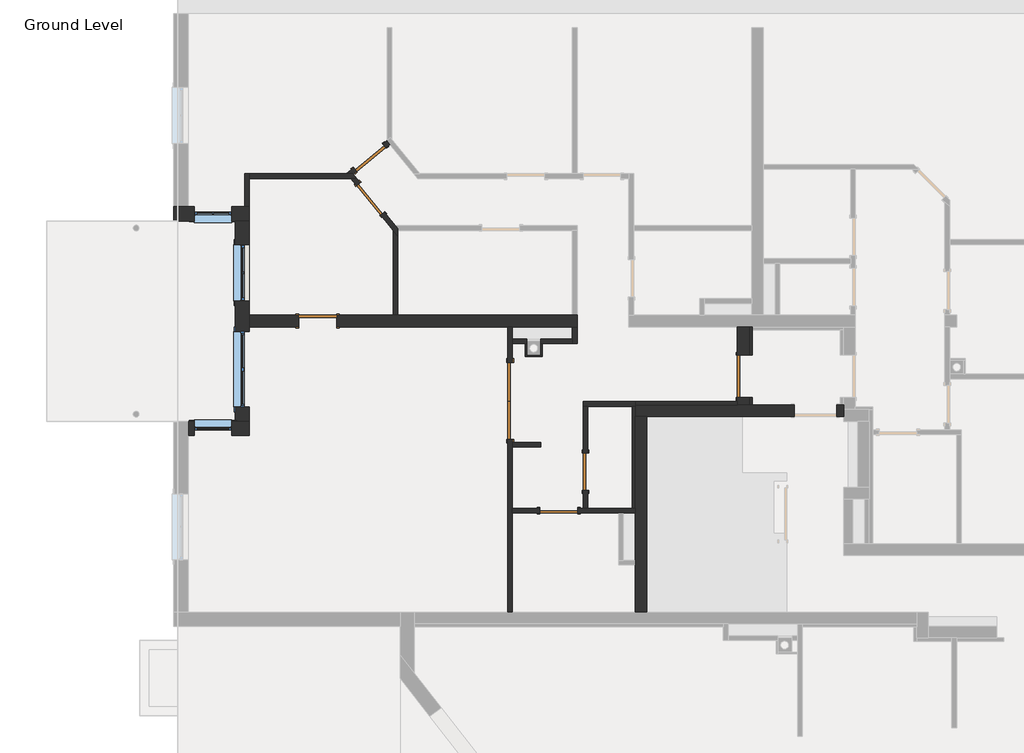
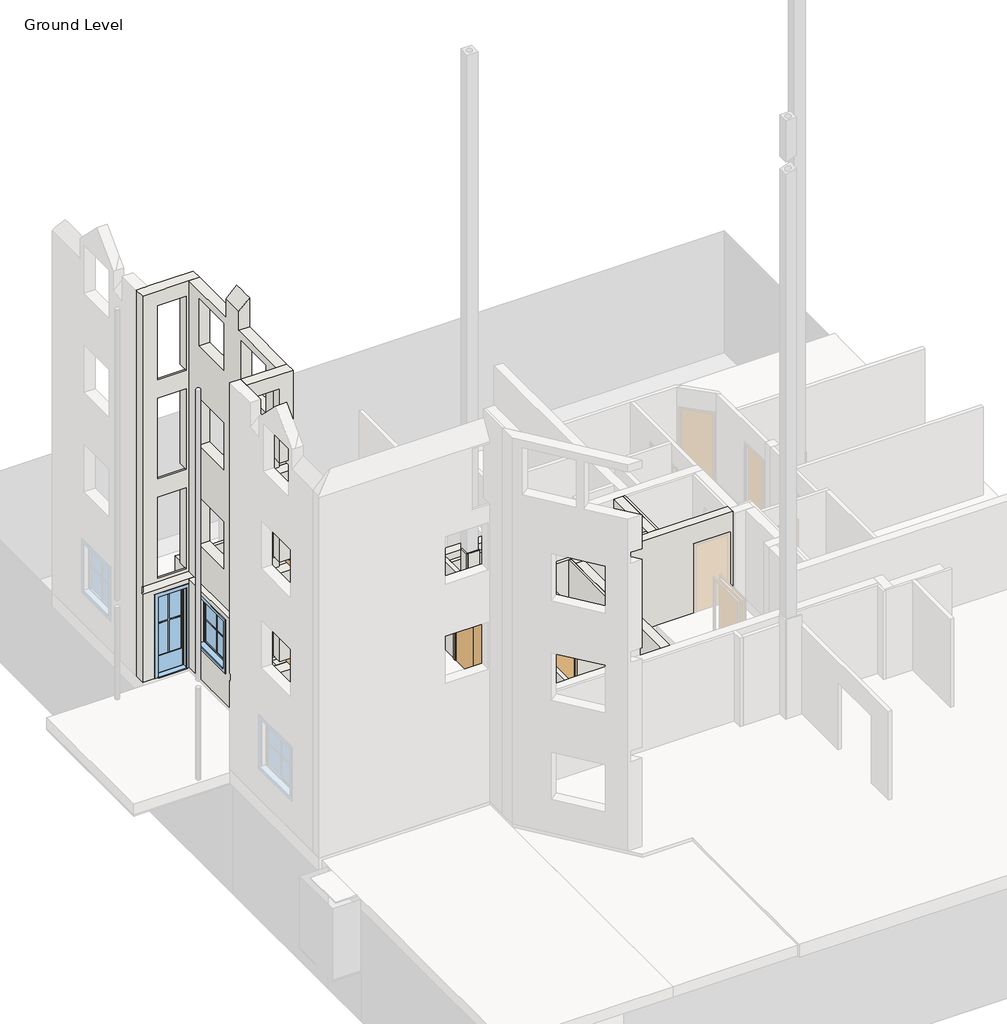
# One storey, part 3 of 6: 26 walls, 7 doors, 4 windows.
"""IFC4 building model written with IfcOpenShell, lengths in millimetres."""

from ifc_helpers import new_model, si_unit, frame, origin, origin_with_axes, place, context, project, spatial, polyline, outline, extrude, faceted_brep, transform, mapped, element, save
from components import m_double_flush_1640_x_2000mm_58610322, standard_door_sd_800x2000_6a16926d, standard_door_sd_800x2000_80f4ff25, standard_door_sd_800x2000_0203fe2f, standard_door_sd_900x2000_4224ae2a, standard_window_with_mullions_80486b60, window_1_87741a49, window_2_4fa60929

model = new_model("IFC4")

# Units and contexts
model_context = context("Model", 3, world=origin())
ifc_project = project(units=[si_unit("LENGTHUNIT", "METRE", prefix="MILLI")], contexts=[model_context])

# Site, building, storey
site = spatial("IfcSite", under=ifc_project)
building = spatial("IfcBuilding", under=site)
storey = spatial("IfcBuildingStorey", under=building, Name="Ground Level", Elevation=0.0)

# Doors
placement = place(None, origin())
m_double_flush_1640_x_2000mm_shape = m_double_flush_1640_x_2000mm_58610322(model_context)
element("IfcDoor", 1, ObjectType="M_Double-Flush : 1640 x 2000mm", at=placement, inside=storey, context=model_context, shape_type="MappedRepresentation", body=[
    mapped(m_double_flush_1640_x_2000mm_shape, transform((-5507.1962165, 2648.5597712, 0.0), x_axis=(0.0, 1.0, 0.0), y_axis=(-1.0, 0.0, 0.0), z_axis=(0.0, 0.0, 1.0))),
])
standard_door_sd_800x2000_shape = standard_door_sd_800x2000_6a16926d(model_context)
element("IfcDoor", 2, ObjectType="Standard Door : SD 800x2000", at=placement, inside=storey, context=model_context, shape_type="MappedRepresentation", body=[
    mapped(standard_door_sd_800x2000_shape, transform((-8469.5473453, 6934.8185333, 0.0), x_axis=(0.6321660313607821, -0.7748329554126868, 0.0), y_axis=(0.7748329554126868, 0.6321660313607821, 0.0), z_axis=(0.0, 0.0, 1.0))),
])
standard_door_sd_800x2000_2_shape = standard_door_sd_800x2000_80f4ff25(model_context)
element("IfcDoor", 3, ObjectType="Standard Door : SD 800x2000", at=placement, inside=storey, context=model_context, shape_type="MappedRepresentation", body=[
    mapped(standard_door_sd_800x2000_2_shape, transform((-3907.1962165, 1147.6290541, 0.0), x_axis=(0.0, 0.9999999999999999, 0.0), y_axis=(-0.9999999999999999, 0.0, 0.0), z_axis=(0.0, 0.0, 1.0))),
])
element("IfcDoor", 4, ObjectType="Standard Door : SD 800x2000", at=placement, inside=storey, context=model_context, shape_type="MappedRepresentation", body=[
    mapped(standard_door_sd_800x2000_2_shape, transform((-4475.9642739, 317.6290541, 0.0), x_axis=(-1.0, 0.0, 0.0), y_axis=(0.0, -1.0, 0.0), z_axis=(0.0, 0.0, 1.0))),
])
element("IfcDoor", 5, ObjectType="Standard Door : SD 800x2000", at=placement, inside=storey, context=model_context, shape_type="MappedRepresentation", body=[
    mapped(standard_door_sd_800x2000_2_shape, transform((-8482.650289, 7809.8077825, 0.0), x_axis=(-0.7748329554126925, -0.6321660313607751, 0.0), y_axis=(0.6321660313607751, -0.7748329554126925, 0.0), z_axis=(0.0, 0.0, 1.0))),
])
standard_door_sd_800x2000_3_shape = standard_door_sd_800x2000_0203fe2f(model_context)
element("IfcDoor", 6, ObjectType="Standard Door : SD 800x2000", at=placement, inside=storey, context=model_context, shape_type="MappedRepresentation", body=[
    mapped(standard_door_sd_800x2000_3_shape, transform((-9588.4360939, 4342.6290541, 0.0), x_axis=(-1.0, 0.0, 0.0), y_axis=(0.0, -1.0, 0.0), z_axis=(0.0, 0.0, 1.0))),
])
standard_door_sd_900x2000_shape = standard_door_sd_900x2000_4224ae2a(model_context)
element("IfcDoor", 7, ObjectType="Standard Door : SD 900x2000", at=placement, inside=storey, context=model_context, shape_type="MappedRepresentation", body=[
    mapped(standard_door_sd_900x2000_shape, transform((-562.1962165, 3171.1987133, 0.0), x_axis=(0.0, 1.0, 0.0), y_axis=(-1.0, 0.0, 0.0), z_axis=(0.0, 0.0, 1.0))),
])

# Walls
element("IfcWall", 8, ObjectType="Exterior - 250 + 50mm", at=placement, inside=storey, context=model_context, shape_type="Brep", body=[
    faceted_brep([(-11037.1962165, 2217.6290541, 0.0), (-11337.1962165, 2217.6290541, 0.0), (-11337.1962165, 2517.6290559, 0.0), (-11037.1962165, 2517.6290559, 0.0), (-11337.1962165, 6467.6290541, 0.0), (-11037.1962165, 6467.6290541, 0.0), (-11037.1962165, 4467.6290541, 0.0), (-11037.1962165, 4217.6290541, 0.0), (-11037.1962165, 4117.6290559, 0.0), (-11337.1962165, 4117.6290559, 0.0), (-11037.1962165, 2517.6290559, 2400.0), (-11037.1962165, 4117.6290559, 2400.0), (-11037.1962165, 6467.6290541, 2630.0), (-11037.1962165, 4467.6290541, 2630.0), (-11037.1962165, 4217.6290541, 2630.0), (-11037.1962165, 2217.6290541, 2630.0), (-11037.1962165, 4767.6290548, 1000.0), (-11037.1962165, 4767.6290548, 2400.0), (-11037.1962165, 5967.6290548, 2400.0), (-11037.1962165, 5967.6290548, 1000.0), (-11337.1962165, 2517.6290559, 2400.0), (-11337.1962165, 2217.6290541, 2630.0), (-11337.1962165, 6467.6290541, 2630.0), (-11337.1962165, 4117.6290559, 2400.0), (-11337.1962165, 4767.6290548, 2400.0), (-11337.1962165, 4767.6290548, 1000.0), (-11337.1962165, 5967.6290548, 1000.0), (-11337.1962165, 5967.6290548, 2400.0)], [[[0, 1, 2, 3]], [[4, 5, 6, 7, 8, 9]], [[3, 10, 11, 8, 7, 6, 5, 12, 13, 14, 15, 0], [16, 17, 18, 19]], [[20, 2, 1, 21, 22, 4, 9, 23], [24, 25, 26, 27]], [[1, 0, 15, 21]], [[5, 4, 22, 12]], [[10, 3, 2, 20]], [[11, 10, 20, 23]], [[8, 11, 23, 9]], [[17, 16, 25, 24]], [[18, 17, 24, 27]], [[19, 18, 27, 26]], [[16, 19, 26, 25]], [[15, 14, 13, 12, 22, 21]]]),
    faceted_brep([(-11037.1962165, 4647.6290541, 11480.0), (-11037.1962165, 4647.6290541, 11800.0), (-11037.1962165, 4647.6290541, 12350.0), (-11037.1962165, 4447.6290541, 12350.0), (-11037.1962165, 4237.6290541, 12350.0), (-11037.1962165, 4037.6290541, 12350.0), (-11037.1962165, 4037.6290541, 11800.0), (-11037.1962165, 4037.6290541, 11480.0), (-11037.1962165, 2217.6290541, 11480.0), (-11037.1962165, 2217.6290541, 8850.0), (-11037.1962165, 4152.6290541, 8850.0), (-11037.1962165, 4217.6290541, 8850.0), (-11037.1962165, 4467.6290541, 8850.0), (-11037.1962165, 6467.6290541, 8850.0), (-11037.1962165, 6467.6290541, 11480.0), (-11037.1962165, 2717.6290548, 9850.0), (-11037.1962165, 2717.6290548, 11250.0), (-11037.1962165, 3917.6290548, 11250.0), (-11037.1962165, 3917.6290548, 9850.0), (-11037.1962165, 4767.6290548, 9850.0), (-11037.1962165, 4767.6290548, 11250.0), (-11037.1962165, 5967.6290548, 11250.0), (-11037.1962165, 5967.6290548, 9850.0), (-11037.1962165, 2517.6290559, 5900.0), (-11037.1962165, 2517.6290559, 8300.0), (-11037.1962165, 4117.6290559, 8300.0), (-11037.1962165, 4117.6290559, 5900.0), (-11037.1962165, 4152.6290541, 5900.0), (-11037.1962165, 4217.6290541, 5900.0), (-11037.1962165, 4467.6290541, 5900.0), (-11037.1962165, 6467.6290541, 5900.0), (-11037.1962165, 6467.6290541, 8530.0), (-11037.1962165, 4467.6290541, 8530.0), (-11037.1962165, 4217.6290541, 8530.0), (-11037.1962165, 4152.6290541, 8530.0), (-11037.1962165, 2217.6290541, 8530.0), (-11037.1962165, 2217.6290541, 5900.0), (-11037.1962165, 4767.6290548, 6900.0), (-11037.1962165, 4767.6290548, 8300.0), (-11037.1962165, 5967.6290548, 8300.0), (-11037.1962165, 5967.6290548, 6900.0), (-11037.1962165, 2517.6290559, 2950.0), (-11037.1962165, 2517.6290559, 5350.0), (-11037.1962165, 4117.6290559, 5350.0), (-11037.1962165, 4117.6290559, 2950.0), (-11037.1962165, 4152.6290541, 2950.0), (-11037.1962165, 4217.6290541, 2950.0), (-11037.1962165, 4467.6290541, 2950.0), (-11037.1962165, 6367.6290541, 2950.0), (-11037.1962165, 6467.6290541, 2950.0), (-11037.1962165, 6467.6290541, 5580.0), (-11037.1962165, 6367.6290541, 5580.0), (-11037.1962165, 4467.6290541, 5580.0), (-11037.1962165, 4217.6290541, 5580.0), (-11037.1962165, 4152.6290541, 5580.0), (-11037.1962165, 2217.6290541, 5580.0), (-11037.1962165, 2217.6290541, 2950.0), (-11037.1962165, 4767.6290548, 3950.0), (-11037.1962165, 4767.6290548, 5350.0), (-11037.1962165, 5967.6290548, 5350.0), (-11037.1962165, 5967.6290548, 3950.0), (-11337.1962165, 4647.6290541, 12050.0), (-11337.1962165, 4647.6290541, 11480.0), (-11337.1962165, 6467.6290541, 11480.0), (-11337.1962165, 6467.6290541, 2850.0), (-11337.1962165, 4392.6290541, 2850.0), (-11337.1962165, 4292.6290541, 2850.0), (-11337.1962165, 2217.6290541, 2850.0), (-11337.1962165, 2217.6290541, 11480.0), (-11337.1962165, 4037.6290541, 11480.0), (-11337.1962165, 4037.6290541, 12050.0), (-11337.1962165, 2717.6290548, 11250.0), (-11337.1962165, 2717.6290548, 9850.0), (-11337.1962165, 3917.6290548, 9850.0), (-11337.1962165, 3917.6290548, 11250.0), (-11337.1962165, 4767.6290548, 11250.0), (-11337.1962165, 4767.6290548, 9850.0), (-11337.1962165, 5967.6290548, 9850.0), (-11337.1962165, 5967.6290548, 11250.0), (-11337.1962165, 4767.6290548, 8300.0), (-11337.1962165, 4767.6290548, 6900.0), (-11337.1962165, 5967.6290548, 6900.0), (-11337.1962165, 5967.6290548, 8300.0), (-11337.1962165, 2517.6290559, 8300.0), (-11337.1962165, 2517.6290559, 5900.0), (-11337.1962165, 4117.6290559, 5900.0), (-11337.1962165, 4117.6290559, 8300.0), (-11337.1962165, 4767.6290548, 5350.0), (-11337.1962165, 4767.6290548, 3950.0), (-11337.1962165, 5967.6290548, 3950.0), (-11337.1962165, 5967.6290548, 5350.0), (-11337.1962165, 2517.6290559, 5350.0), (-11337.1962165, 2517.6290559, 2950.0), (-11337.1962165, 4117.6290559, 2950.0), (-11337.1962165, 4117.6290559, 5350.0), (-11287.1962165, 2217.6290541, 2850.0), (-11287.1962165, 2217.6290541, 2950.0), (-11287.1962165, 2217.6290541, 5580.0), (-11287.1962165, 2217.6290541, 5900.0), (-11287.1962165, 2217.6290541, 8530.0), (-11287.1962165, 2217.6290541, 8850.0), (-11287.1962165, 6467.6290541, 8850.0), (-11287.1962165, 6467.6290541, 8530.0), (-11287.1962165, 6467.6290541, 5900.0), (-11287.1962165, 6467.6290541, 5580.0), (-11287.1962165, 6467.6290541, 2950.0), (-11287.1962165, 6467.6290541, 2850.0), (-11287.1962165, 2517.6290559, 5900.0), (-11287.1962165, 4117.6290559, 5900.0), (-11287.1962165, 2517.6290559, 2950.0), (-11287.1962165, 4117.6290559, 2950.0)], [[[0, 1, 2, 3, 4, 5, 6, 7, 8, 9, 10, 11, 12, 13, 14], [15, 16, 17, 18], [19, 20, 21, 22]], [[23, 24, 25, 26, 27, 28, 29, 30, 31, 32, 33, 34, 35, 36], [37, 38, 39, 40]], [[41, 42, 43, 44, 45, 46, 47, 48, 49, 50, 51, 52, 53, 54, 55, 56], [57, 58, 59, 60]], [[61, 62, 63, 64, 65, 66, 67, 68, 69, 70], [71, 72, 73, 74], [75, 76, 77, 78], [79, 80, 81, 82], [83, 84, 85, 86], [87, 88, 89, 90], [91, 92, 93, 94]], [[8, 68, 67, 95, 96, 56, 55, 97, 98, 36, 35, 99, 100, 9]], [[63, 14, 13, 101, 102, 31, 30, 103, 104, 50, 49, 105, 106, 64]], [[2, 1, 0, 62, 61]], [[70, 69, 7, 6, 5]], [[5, 4, 3, 2, 61, 70]], [[0, 14, 63, 62]], [[8, 7, 69, 68]], [[16, 15, 72, 71]], [[17, 16, 71, 74]], [[18, 17, 74, 73]], [[15, 18, 73, 72]], [[20, 19, 76, 75]], [[21, 20, 75, 78]], [[22, 21, 78, 77]], [[19, 22, 77, 76]], [[38, 37, 80, 79]], [[39, 38, 79, 82]], [[40, 39, 82, 81]], [[37, 40, 81, 80]], [[24, 23, 107, 84, 83]], [[25, 24, 83, 86]], [[26, 25, 86, 85, 108]], [[85, 84, 107, 108]], [[58, 57, 88, 87]], [[59, 58, 87, 90]], [[60, 59, 90, 89]], [[57, 60, 89, 88]], [[42, 41, 109, 92, 91]], [[43, 42, 91, 94]], [[44, 43, 94, 93, 110]], [[93, 92, 109, 110]], [[96, 109, 41, 56]], [[110, 105, 49, 48, 47, 46, 45, 44]], [[109, 96, 95, 106, 105, 110]], [[67, 66, 65, 64, 106, 95]], [[104, 97, 55, 54, 53, 52, 51, 50]], [[98, 107, 23, 36]], [[108, 103, 30, 29, 28, 27, 26]], [[97, 104, 103, 108, 107, 98]], [[102, 99, 35, 34, 33, 32, 31]], [[100, 101, 13, 12, 11, 10, 9]], [[99, 102, 101, 100]]]),
])
element("IfcWall", 9, ObjectType="Exterior - 250+50mm", at=placement, inside=storey, context=model_context, shape_type="Brep", body=[
    faceted_brep([(-12637.1962165, 6467.6290541, 0.0), (-12637.1962165, 6767.6290541, 0.0), (-12337.1962165, 6767.6290541, 0.0), (-12207.370388, 6767.6290541, 0.0), (-12207.370388, 6467.6290541, 0.0), (-11037.1962165, 6767.6290541, 0.0), (-11037.1962165, 6467.6290541, 0.0), (-11337.1962165, 6467.6290541, 0.0), (-11407.370388, 6467.6290541, 0.0), (-11407.370388, 6767.6290541, 0.0), (-11137.1962165, 6767.6290541, 0.0), (-12637.1962165, 6767.6290541, 11480.0), (-12337.1962165, 6767.6290541, 11480.0), (-11037.1962165, 6767.6290541, 11480.0), (-11037.1962165, 6767.6290541, 8850.0), (-11407.370388, 6767.6290541, 8850.0), (-11407.370388, 6767.6290541, 11050.0), (-12207.370388, 6767.6290541, 11050.0), (-12207.370388, 6767.6290541, 8850.0), (-12337.1962165, 6767.6290541, 8850.0), (-12587.1962165, 6767.6290541, 8850.0), (-12587.1962165, 6767.6290541, 8530.0), (-12337.1962165, 6767.6290541, 8530.0), (-11137.1962165, 6767.6290541, 8530.0), (-11037.1962165, 6767.6290541, 8530.0), (-11037.1962165, 6767.6290541, 5900.0), (-11137.1962165, 6767.6290541, 5900.0), (-11407.370388, 6767.6290541, 5900.0), (-11407.370388, 6767.6290541, 8300.0), (-12207.370388, 6767.6290541, 8300.0), (-12207.370388, 6767.6290541, 5900.0), (-12337.1962165, 6767.6290541, 5900.0), (-12587.1962165, 6767.6290541, 5900.0), (-12587.1962165, 6767.6290541, 5580.0), (-12337.1962165, 6767.6290541, 5580.0), (-11037.1962165, 6767.6290541, 5580.0), (-11037.1962165, 6767.6290541, 2950.0), (-11407.370388, 6767.6290541, 2950.0), (-11407.370388, 6767.6290541, 5350.0), (-12207.370388, 6767.6290541, 5350.0), (-12207.370388, 6767.6290541, 2950.0), (-12337.1962165, 6767.6290541, 2950.0), (-12587.1962165, 6767.6290541, 2950.0), (-12587.1962165, 6767.6290541, 2630.0), (-12337.1962165, 6767.6290541, 2630.0), (-11137.1962165, 6767.6290541, 2630.0), (-11037.1962165, 6767.6290541, 2630.0), (-11407.370388, 6767.6290541, 2400.0), (-12207.370388, 6767.6290541, 2400.0), (-11037.1962165, 6467.6290541, 11480.0), (-11337.1962165, 6467.6290541, 11480.0), (-12637.1962165, 6467.6290541, 11480.0), (-12637.1962165, 6467.6290541, 2850.0), (-11337.1962165, 6467.6290541, 2850.0), (-11287.1962165, 6467.6290541, 2850.0), (-11287.1962165, 6467.6290541, 2950.0), (-11037.1962165, 6467.6290541, 2950.0), (-11037.1962165, 6467.6290541, 5580.0), (-11287.1962165, 6467.6290541, 5580.0), (-11287.1962165, 6467.6290541, 5900.0), (-11037.1962165, 6467.6290541, 5900.0), (-11037.1962165, 6467.6290541, 8530.0), (-11287.1962165, 6467.6290541, 8530.0), (-11287.1962165, 6467.6290541, 8850.0), (-11037.1962165, 6467.6290541, 8850.0), (-12207.370388, 6467.6290541, 8850.0), (-12207.370388, 6467.6290541, 11050.0), (-11407.370388, 6467.6290541, 11050.0), (-11407.370388, 6467.6290541, 8850.0), (-12207.370388, 6467.6290541, 5900.0), (-12207.370388, 6467.6290541, 8300.0), (-11407.370388, 6467.6290541, 8300.0), (-11407.370388, 6467.6290541, 5900.0), (-12207.370388, 6467.6290541, 2950.0), (-12207.370388, 6467.6290541, 5350.0), (-11407.370388, 6467.6290541, 5350.0), (-11407.370388, 6467.6290541, 2950.0), (-11407.370388, 6467.6290541, 2400.0), (-11037.1962165, 6467.6290541, 2630.0), (-11337.1962165, 6467.6290541, 2630.0), (-12637.1962165, 6467.6290541, 2630.0), (-12207.370388, 6467.6290541, 2400.0), (-12637.1962165, 6517.6290541, 2630.0), (-12637.1962165, 6517.6290541, 2850.0), (-12207.370388, 6517.6290541, 8850.0), (-11407.370388, 6517.6290541, 8850.0), (-12207.370388, 6517.6290541, 5900.0), (-11407.370388, 6517.6290541, 5900.0), (-12207.370388, 6517.6290541, 2950.0), (-11407.370388, 6517.6290541, 2950.0), (-12587.1962165, 6517.6290541, 2630.0), (-12587.1962165, 6517.6290541, 2950.0), (-11287.1962165, 6517.6290541, 2950.0), (-11287.1962165, 6517.6290541, 2850.0), (-12587.1962165, 6517.6290541, 2850.0), (-12587.1962165, 6517.6290541, 5580.0), (-11287.1962165, 6517.6290541, 5580.0), (-12587.1962165, 6517.6290541, 5900.0), (-11287.1962165, 6517.6290541, 5900.0), (-12587.1962165, 6517.6290541, 8530.0), (-11287.1962165, 6517.6290541, 8530.0), (-12587.1962165, 6517.6290541, 8850.0), (-11287.1962165, 6517.6290541, 8850.0)], [[[0, 1, 2, 3, 4]], [[5, 6, 7, 8, 9, 10]], [[1, 11, 12, 13, 14, 15, 16, 17, 18, 19, 20, 21, 22, 23, 24, 25, 26, 27, 28, 29, 30, 31, 32, 33, 34, 35, 36, 37, 38, 39, 40, 41, 42, 43, 44, 45, 46, 5, 10, 9, 47, 48, 3, 2]], [[49, 50, 51, 52, 53, 54, 55, 56, 57, 58, 59, 60, 61, 62, 63, 64], [65, 66, 67, 68], [69, 70, 71, 72], [73, 74, 75, 76]], [[77, 8, 7, 6, 78, 79, 80, 0, 4, 81]], [[11, 1, 0, 80, 82, 83, 52, 51]], [[6, 5, 46, 78]], [[13, 49, 64, 14]], [[56, 36, 35, 57]], [[60, 25, 24, 61]], [[13, 12, 11, 51, 50, 49]], [[47, 9, 8, 77]], [[48, 47, 77, 81]], [[3, 48, 81, 4]], [[66, 65, 84, 18, 17]], [[67, 66, 17, 16]], [[68, 67, 16, 15, 85]], [[65, 68, 85, 84]], [[70, 69, 86, 30, 29]], [[71, 70, 29, 28]], [[72, 71, 28, 27, 87]], [[69, 72, 87, 86]], [[74, 73, 88, 40, 39]], [[75, 74, 39, 38]], [[76, 75, 38, 37, 89]], [[73, 76, 89, 88]], [[43, 90, 82, 80, 79, 78, 46, 45, 44]], [[88, 91, 42, 41, 40]], [[92, 89, 37, 36, 56, 55]], [[92, 55, 54, 93]], [[91, 88, 89, 92, 93, 94]], [[90, 43, 42, 91, 94]], [[83, 94, 93, 54, 53, 52]], [[82, 90, 94, 83]], [[95, 96, 58, 57, 35, 34, 33]], [[86, 97, 32, 31, 30]], [[98, 87, 27, 26, 25, 60, 59]], [[96, 98, 59, 58]], [[96, 95, 97, 86, 87, 98]], [[97, 95, 33, 32]], [[99, 100, 62, 61, 24, 23, 22, 21]], [[84, 101, 20, 19, 18]], [[102, 85, 15, 14, 64, 63]], [[100, 102, 63, 62]], [[100, 99, 101, 84, 85, 102]], [[101, 99, 21, 20]]]),
])
element("IfcWall", 10, ObjectType="Exterior - 250+50mm", at=placement, inside=storey, context=model_context, shape_type="Brep", body=[
    faceted_brep([(-12337.1962165, 1917.6290541, 0.0), (-12337.1962165, 2217.6290541, 0.0), (-12207.3703663, 2217.6290541, 0.0), (-12207.3703663, 1917.6290541, 0.0), (-11037.1962165, 2217.6290541, 0.0), (-11037.1962165, 1917.6290541, 0.0), (-11407.3703663, 1917.6290541, 0.0), (-11407.3703663, 2217.6290541, 0.0), (-11337.1962165, 2217.6290541, 0.0), (-12207.3703663, 1917.6290541, 2400.0), (-11407.3703663, 1917.6290541, 2400.0), (-11037.1962165, 1917.6290541, 2630.0), (-12337.1962165, 1917.6290541, 2630.0), (-12207.3703663, 2217.6290541, 2400.0), (-12337.1962165, 2217.6290541, 2630.0), (-11337.1962165, 2217.6290541, 2630.0), (-11037.1962165, 2217.6290541, 2630.0), (-11407.3703663, 2217.6290541, 2400.0)], [[[0, 1, 2, 3]], [[4, 5, 6, 7, 8]], [[3, 9, 10, 6, 5, 11, 12, 0]], [[13, 2, 1, 14, 15, 16, 4, 8, 7, 17]], [[1, 0, 12, 14]], [[5, 4, 16, 11]], [[9, 3, 2, 13]], [[10, 9, 13, 17]], [[6, 10, 17, 7]], [[12, 11, 16, 15, 14]]]),
    faceted_brep([(-11037.1962165, 1917.6290541, 11480.0), (-12337.1962165, 1917.6290541, 11480.0), (-12337.1962165, 1917.6290541, 8850.0), (-12207.3703663, 1917.6290541, 8850.0), (-12207.3703663, 1917.6290541, 11050.0), (-11407.3703663, 1917.6290541, 11050.0), (-11407.3703663, 1917.6290541, 8850.0), (-11037.1962165, 1917.6290541, 8850.0), (-12207.3703663, 1917.6290541, 5900.0), (-12207.3703663, 1917.6290541, 8300.0), (-11407.3703663, 1917.6290541, 8300.0), (-11407.3703663, 1917.6290541, 5900.0), (-11037.1962165, 1917.6290541, 5900.0), (-11037.1962165, 1917.6290541, 8530.0), (-12337.1962165, 1917.6290541, 8530.0), (-12337.1962165, 1917.6290541, 5900.0), (-12207.3703663, 1917.6290541, 2950.0), (-12207.3703663, 1917.6290541, 5350.0), (-11407.3703663, 1917.6290541, 5350.0), (-11407.3703663, 1917.6290541, 2950.0), (-11037.1962165, 1917.6290541, 2950.0), (-11037.1962165, 1917.6290541, 5580.0), (-12337.1962165, 1917.6290541, 5580.0), (-12337.1962165, 1917.6290541, 2950.0), (-12337.1962165, 2217.6290541, 11480.0), (-11337.1962165, 2217.6290541, 11480.0), (-11037.1962165, 2217.6290541, 11480.0), (-11037.1962165, 2217.6290541, 8850.0), (-11287.1962165, 2217.6290541, 8850.0), (-11287.1962165, 2217.6290541, 8530.0), (-11037.1962165, 2217.6290541, 8530.0), (-11037.1962165, 2217.6290541, 5900.0), (-11287.1962165, 2217.6290541, 5900.0), (-11287.1962165, 2217.6290541, 5580.0), (-11037.1962165, 2217.6290541, 5580.0), (-11037.1962165, 2217.6290541, 2950.0), (-11287.1962165, 2217.6290541, 2950.0), (-11287.1962165, 2217.6290541, 2850.0), (-11337.1962165, 2217.6290541, 2850.0), (-12337.1962165, 2217.6290541, 2850.0), (-12207.3703663, 2217.6290541, 11050.0), (-12207.3703663, 2217.6290541, 8850.0), (-11407.3703663, 2217.6290541, 8850.0), (-11407.3703663, 2217.6290541, 11050.0), (-12207.3703663, 2217.6290541, 8300.0), (-12207.3703663, 2217.6290541, 5900.0), (-11407.3703663, 2217.6290541, 5900.0), (-11407.3703663, 2217.6290541, 8300.0), (-12207.3703663, 2217.6290541, 5350.0), (-12207.3703663, 2217.6290541, 2950.0), (-11407.3703663, 2217.6290541, 2950.0), (-11407.3703663, 2217.6290541, 5350.0), (-12337.1962165, 2167.6290541, 2850.0), (-12337.1962165, 2167.6290541, 2950.0), (-12337.1962165, 2167.6290541, 5580.0), (-12337.1962165, 2167.6290541, 5900.0), (-12337.1962165, 2167.6290541, 8530.0), (-12337.1962165, 2167.6290541, 8850.0), (-12207.3703663, 2167.6290541, 8850.0), (-11407.3703663, 2167.6290541, 8850.0), (-12207.3703663, 2167.6290541, 5900.0), (-11407.3703663, 2167.6290541, 5900.0), (-12207.3703663, 2167.6290541, 2950.0), (-11407.3703663, 2167.6290541, 2950.0), (-11287.1962165, 2167.6290541, 2950.0), (-11287.1962165, 2167.6290541, 2850.0), (-11287.1962165, 2167.6290541, 5580.0), (-11287.1962165, 2167.6290541, 5900.0), (-11287.1962165, 2167.6290541, 8530.0), (-11287.1962165, 2167.6290541, 8850.0)], [[[0, 1, 2, 3, 4, 5, 6, 7]], [[8, 9, 10, 11, 12, 13, 14, 15]], [[16, 17, 18, 19, 20, 21, 22, 23]], [[24, 25, 26, 27, 28, 29, 30, 31, 32, 33, 34, 35, 36, 37, 38, 39], [40, 41, 42, 43], [44, 45, 46, 47], [48, 49, 50, 51]], [[1, 24, 39, 52, 53, 23, 22, 54, 55, 15, 14, 56, 57, 2]], [[26, 0, 7, 27]], [[20, 35, 34, 21]], [[12, 31, 30, 13]], [[1, 0, 26, 25, 24]], [[40, 4, 3, 58, 41]], [[4, 40, 43, 5]], [[5, 43, 42, 59, 6]], [[42, 41, 58, 59]], [[9, 8, 60, 45, 44]], [[10, 9, 44, 47]], [[11, 10, 47, 46, 61]], [[46, 45, 60, 61]], [[17, 16, 62, 49, 48]], [[18, 17, 48, 51]], [[19, 18, 51, 50, 63]], [[50, 49, 62, 63]], [[63, 64, 36, 35, 20, 19]], [[53, 62, 16, 23]], [[64, 63, 62, 53, 52, 65]], [[36, 64, 65, 37]], [[39, 38, 37, 65, 52]], [[33, 66, 54, 22, 21, 34]], [[61, 67, 32, 31, 12, 11]], [[55, 60, 8, 15]], [[66, 67, 61, 60, 55, 54]], [[67, 66, 33, 32]], [[29, 68, 56, 14, 13, 30]], [[59, 69, 28, 27, 7, 6]], [[57, 58, 3, 2]], [[68, 69, 59, 58, 57, 56]], [[69, 68, 29, 28]]]),
])
element("IfcWall", 11, ObjectType="Interior - 100mm", at=placement, inside=storey, context=model_context, shape_type="Brep", body=[
    faceted_brep([(-11037.1962165, 6767.6290541, 0.0), (-11037.1962165, 7367.6290541, 0.0), (-11037.1962165, 7467.6290541, 0.0), (-11037.1962165, 7467.6290541, 2630.0), (-11037.1962165, 7367.6290541, 2630.0), (-11037.1962165, 6767.6290541, 2630.0), (-11137.1962165, 6767.6290541, 0.0), (-11137.1962165, 6767.6290541, 2630.0), (-11137.1962165, 7467.6290541, 2630.0), (-11137.1962165, 7467.6290541, 0.0)], [[[0, 1, 2, 3, 4, 5]], [[6, 7, 8, 9]], [[2, 1, 0, 6, 9]], [[3, 2, 9, 8]], [[0, 5, 7, 6]], [[5, 4, 3, 8, 7]]]),
])
element("IfcWall", 12, ObjectType="Interior - 100mm", at=placement, inside=storey, context=model_context, shape_type="Brep", body=[
    faceted_brep([(-11037.1962165, 7367.6290541, 0.0), (-8887.1962165, 7367.6290541, 0.0), (-8758.1361407, 7367.6290541, 0.0), (-8758.1361407, 7367.6290541, 2630.0), (-8887.1962165, 7367.6290541, 2630.0), (-11037.1962165, 7367.6290541, 2630.0), (-11037.1962165, 7467.6290541, 0.0), (-11037.1962165, 7467.6290541, 2630.0), (-8981.1448929, 7467.6290541, 2630.0), (-8839.7235366, 7467.6290541, 2630.0), (-8839.7235366, 7467.6290541, 0.0), (-8981.1448929, 7467.6290541, 0.0)], [[[0, 1, 2, 3, 4, 5]], [[6, 7, 8, 9, 10, 11]], [[2, 1, 0, 6, 11, 10]], [[3, 2, 10, 9]], [[0, 5, 7, 6]], [[5, 4, 3, 9, 8, 7]]]),
])
element("IfcWall", 13, ObjectType="Interior - 100mm", at=placement, inside=storey, context=model_context, shape_type="Brep", body=[
    faceted_brep([(-7889.734861, 6145.0611025, 0.0), (-7989.734861, 6267.6290541, 0.0), (-8255.4225805, 6593.2770496, 0.0), (-8177.939285, 6656.4936527, 0.0), (-7942.2621811, 6367.6290541, 0.0), (-7889.734861, 6303.2473938, 0.0), (-8761.1554056, 7213.1434139, 0.0), (-8887.1962165, 7367.6290541, 0.0), (-8758.1361407, 7367.6290541, 0.0), (-8683.6721101, 7276.3600171, 0.0), (-8255.4225805, 6593.2770496, 2000.0), (-7889.734861, 6145.0611025, 2630.0), (-7989.734861, 6267.6290541, 2630.0), (-8887.1962165, 7367.6290541, 2630.0), (-8761.1554056, 7213.1434139, 2000.0), (-8177.939285, 6656.4936527, 2000.0), (-8683.6721101, 7276.3600171, 2000.0), (-8758.1361407, 7367.6290541, 2630.0), (-7942.2621811, 6367.6290541, 2630.0), (-7889.734861, 6303.2473938, 2630.0)], [[[0, 1, 2, 3, 4, 5]], [[6, 7, 8, 9]], [[10, 2, 1, 0, 11, 12, 13, 7, 6, 14]], [[5, 4, 3, 15, 16, 9, 8, 17, 18, 19]], [[7, 13, 17, 8]], [[11, 0, 5, 19]], [[13, 12, 11, 19, 18, 17]], [[15, 3, 2, 10]], [[16, 15, 10, 14]], [[9, 16, 14, 6]]]),
])
element("IfcWall", 14, ObjectType="Interior - 100mm", at=placement, inside=storey, context=model_context, shape_type="SweptSolid", body=[
    extrude(outline(polyline([(-7989.734861, 4467.6290541), (-7989.734861, 6267.6290541), (-7889.734861, 6145.0611025), (-7889.734861, 4467.6290541), (-7989.734861, 4467.6290541)])), origin_with_axes(), (0.0, 0.0, 1.0), 2630.0),
])
element("IfcWall", 15, ObjectType="Interior - 100mm", at=placement, inside=storey, context=model_context, shape_type="Brep", body=[
    faceted_brep([(-8981.1448929, 7467.6290541, 0.0), (-8824.1917727, 7595.6830177, 0.0), (-8760.9751696, 7518.1997222, 0.0), (-8822.9586016, 7467.6290541, 0.0), (-8839.7235366, 7467.6290541, 0.0), (-8204.3254084, 8101.4158428, 0.0), (-8121.4073481, 8169.0665289, 0.0), (-8058.190745, 8091.5832334, 0.0), (-8141.1088052, 8023.9325473, 0.0), (-8760.9751696, 7518.1997222, 2000.0), (-8141.1088052, 8023.9325473, 2000.0), (-8058.190745, 8091.5832334, 2630.0), (-8822.9586016, 7467.6290541, 2630.0), (-8824.1917727, 7595.6830177, 2000.0), (-8981.1448929, 7467.6290541, 2630.0), (-8121.4073481, 8169.0665289, 2630.0), (-8204.3254084, 8101.4158428, 2000.0), (-8839.7235366, 7467.6290541, 2630.0)], [[[0, 1, 2, 3, 4]], [[5, 6, 7, 8]], [[3, 2, 9, 10, 8, 7, 11, 12]], [[13, 1, 0, 14, 15, 6, 5, 16]], [[3, 12, 17, 14, 0, 4]], [[11, 7, 6, 15]], [[12, 11, 15, 14, 17]], [[9, 2, 1, 13]], [[10, 9, 13, 16]], [[8, 10, 16, 5]]]),
])
element("IfcWall", 16, ObjectType="Interior - 100mm", at=placement, inside=storey, context=model_context, shape_type="Brep", body=[
    faceted_brep([(-4187.1962165, 3967.6290541, 0.0), (-4857.1962165, 3967.6290541, 0.0), (-4857.1962165, 3967.6290541, 2630.0), (-4357.1962165, 3967.6290541, 2630.0), (-4187.1962165, 3967.6290541, 2630.0), (-4187.1962165, 3867.6290541, 0.0), (-4187.1962165, 3867.6290541, 2630.0), (-4857.1962165, 3867.6290541, 2630.0), (-4857.1962165, 3867.6290541, 0.0), (-4827.1962165, 3867.6290541, 0.0)], [[[0, 1, 2, 3, 4]], [[5, 6, 7, 8, 9]], [[1, 0, 5, 9, 8]], [[2, 1, 8, 7]], [[0, 4, 6, 5]], [[4, 3, 2, 7, 6]]]),
])
element("IfcWall", 17, ObjectType="Interior - 100mm", at=placement, inside=storey, context=model_context, shape_type="Brep", body=[
    faceted_brep([(-5157.1962165, 3967.6290541, 0.0), (-5457.1962165, 3967.6290541, 0.0), (-5457.1962165, 3967.6290541, 2630.0), (-5157.1962165, 3967.6290541, 2630.0), (-5157.1962165, 3867.6290541, 0.0), (-5157.1962165, 3867.6290541, 2630.0), (-5457.1962165, 3867.6290541, 2630.0), (-5457.1962165, 3867.6290541, 0.0), (-5187.1962165, 3867.6290541, 0.0)], [[[0, 1, 2, 3]], [[4, 5, 6, 7, 8]], [[1, 0, 4, 8, 7]], [[0, 3, 5, 4]], [[2, 1, 7, 6]], [[3, 2, 6, 5]]]),
])
element("IfcWall", 18, ObjectType="Interior - 100mm", at=placement, inside=storey, context=model_context, shape_type="Brep", body=[
    faceted_brep([(-5457.1962165, 4217.6290541, 0.0), (-5457.1962165, 3967.6290541, 0.0), (-5457.1962165, 3867.6290541, 0.0), (-5457.1962165, 3468.5597712, 0.0), (-5557.1962165, 3468.5597712, 0.0), (-5557.1962165, 4217.6290541, 0.0), (-5457.1962165, 1828.5597712, 0.0), (-5457.1962165, 1767.6290541, 0.0), (-5457.1962165, 1667.6290541, 0.0), (-5457.1962165, 367.6290541, 0.0), (-5457.1962165, 267.6290541, 0.0), (-5457.1962165, -1832.3709459, 0.0), (-5557.1962165, -1832.3709459, 0.0), (-5557.1962165, 1828.5597712, 0.0), (-5557.1962165, 3468.5597712, 2000.0), (-5557.1962165, 1828.5597712, 2000.0), (-5557.1962165, -1832.3709459, 2630.0), (-5557.1962165, 4217.6290541, 2630.0), (-5457.1962165, 3468.5597712, 2000.0), (-5457.1962165, 4217.6290541, 2630.0), (-5457.1962165, 3967.6290541, 2630.0), (-5457.1962165, 3867.6290541, 2630.0), (-5457.1962165, 1767.6290541, 2630.0), (-5457.1962165, 1667.6290541, 2630.0), (-5457.1962165, 367.6290541, 2630.0), (-5457.1962165, 267.6290541, 2630.0), (-5457.1962165, -1832.3709459, 2630.0), (-5457.1962165, 1828.5597712, 2000.0)], [[[0, 1, 2, 3, 4, 5]], [[6, 7, 8, 9, 10, 11, 12, 13]], [[5, 4, 14, 15, 13, 12, 16, 17]], [[18, 3, 2, 1, 0, 19, 20, 21, 22, 23, 24, 25, 26, 11, 10, 9, 8, 7, 6, 27]], [[5, 17, 19, 0]], [[16, 12, 11, 26]], [[17, 16, 26, 25, 24, 23, 22, 21, 20, 19]], [[14, 4, 3, 18]], [[15, 14, 18, 27]], [[13, 15, 27, 6]]]),
])
element("IfcWall", 19, ObjectType="Interior - 100mm", at=placement, inside=storey, context=model_context, shape_type="Brep", body=[
    faceted_brep([(-5457.1962165, 367.6290541, 0.0), (-4875.9642739, 367.6290541, 0.0), (-4875.9642739, 267.6290541, 0.0), (-5457.1962165, 267.6290541, 0.0), (-4075.9642739, 367.6290541, 0.0), (-3957.1962165, 367.6290541, 0.0), (-3857.1962165, 367.6290541, 0.0), (-2922.1962165, 367.6290541, 0.0), (-2857.1962165, 367.6290541, 0.0), (-2857.1962165, 267.6290541, 0.0), (-3107.1962165, 267.6290541, 0.0), (-3207.1962165, 267.6290541, 0.0), (-4075.9642739, 267.6290541, 0.0), (-4875.9642739, 267.6290541, 2000.0), (-4075.9642739, 267.6290541, 2000.0), (-2857.1962165, 267.6290541, 2630.0), (-3107.1962165, 267.6290541, 2630.0), (-3207.1962165, 267.6290541, 2630.0), (-5457.1962165, 267.6290541, 2630.0), (-4875.9642739, 367.6290541, 2000.0), (-5457.1962165, 367.6290541, 2630.0), (-3957.1962165, 367.6290541, 2630.0), (-3857.1962165, 367.6290541, 2630.0), (-2922.1962165, 367.6290541, 2630.0), (-2857.1962165, 367.6290541, 2630.0), (-4075.9642739, 367.6290541, 2000.0)], [[[0, 1, 2, 3]], [[4, 5, 6, 7, 8, 9, 10, 11, 12]], [[3, 2, 13, 14, 12, 11, 10, 9, 15, 16, 17, 18]], [[19, 1, 0, 20, 21, 22, 23, 24, 8, 7, 6, 5, 4, 25]], [[15, 9, 8, 24]], [[3, 18, 20, 0]], [[18, 17, 16, 15, 24, 23, 22, 21, 20]], [[13, 2, 1, 19]], [[14, 13, 19, 25]], [[12, 14, 25, 4]]]),
])
element("IfcWall", 20, ObjectType="Interior - 100mm", at=placement, inside=storey, context=model_context, shape_type="Brep", body=[
    faceted_brep([(-4187.1962165, 4217.6290541, 0.0), (-4187.1962165, 3967.6290541, 0.0), (-4187.1962165, 3867.6290541, 0.0), (-4187.1962165, 3867.6290541, 2630.0), (-4187.1962165, 3967.6290541, 2630.0), (-4187.1962165, 4217.6290541, 2630.0), (-4087.1962165, 4217.6290541, 0.0), (-4087.1962165, 4217.6290541, 2630.0), (-4087.1962165, 3867.6290541, 2630.0), (-4087.1962165, 3867.6290541, 0.0)], [[[0, 1, 2, 3, 4, 5]], [[6, 7, 8, 9]], [[2, 1, 0, 6, 9]], [[3, 2, 9, 8]], [[0, 5, 7, 6]], [[5, 4, 3, 8, 7]]]),
])
element("IfcWall", 21, ObjectType="Interior - 100mm", at=placement, inside=storey, context=model_context, shape_type="Brep", body=[
    faceted_brep([(-2857.1962165, 2632.6290541, 0.0), (-3957.1962165, 2632.6290541, 0.0), (-3957.1962165, 2632.6290541, 2630.0), (-2857.1962165, 2632.6290541, 2630.0), (-2857.1962165, 2532.6290541, 0.0), (-2857.1962165, 2532.6290541, 2630.0), (-2922.1962165, 2532.6290541, 2630.0), (-3857.1962165, 2532.6290541, 2630.0), (-3957.1962165, 2532.6290541, 2630.0), (-3957.1962165, 2532.6290541, 0.0), (-3857.1962165, 2532.6290541, 0.0), (-2922.1962165, 2532.6290541, 0.0), (-2857.1962165, 2567.6290541, 0.0), (-2857.1962165, 2567.6290541, 2630.0)], [[[0, 1, 2, 3]], [[4, 5, 6, 7, 8, 9, 10, 11]], [[1, 0, 12, 4, 11, 10, 9]], [[2, 1, 9, 8]], [[0, 3, 13, 5, 4, 12]], [[3, 2, 8, 7, 6, 5, 13]]]),
])
element("IfcWall", 22, ObjectType="Interior - 100mm", at=placement, inside=storey, context=model_context, shape_type="SweptSolid", body=[
    extrude(outline(polyline([(2532.6290541, 0.0), (1547.6290541, 0.0), (1547.6290541, 2000.0), (747.6290541, 2000.0), (747.6290541, 0.0), (367.6290541, 0.0), (367.6290541, 2630.0), (2532.6290541, 2630.0), (2532.6290541, 0.0)])), frame((-3957.1962165, 0.0, 0.0), z_axis=(1.0, 0.0, 0.0), x_axis=(0.0, 1.0, 0.0)), (0.0, 0.0, 1.0), 100.0),
])
element("IfcWall", 23, ObjectType="Interior - 100mm", at=placement, inside=storey, context=model_context, shape_type="SweptSolid", body=[
    extrude(outline(polyline([(-4857.1962165, 1667.6290541), (-5457.1962165, 1667.6290541), (-5457.1962165, 1767.6290541), (-4857.1962165, 1767.6290541), (-4857.1962165, 1667.6290541)])), origin_with_axes(), (0.0, 0.0, 1.0), 2630.0),
])
element("IfcWall", 24, ObjectType="Interior - 250mm", at=placement, inside=storey, context=model_context, shape_type="Brep", body=[
    faceted_brep([(-11037.1962165, 4467.6290541, 0.0), (-9988.4360939, 4467.6290541, 0.0), (-9988.4360939, 4217.6290541, 0.0), (-11037.1962165, 4217.6290541, 0.0), (-9188.4360939, 4467.6290541, 0.0), (-7989.734861, 4467.6290541, 0.0), (-7889.734861, 4467.6290541, 0.0), (-4187.1962165, 4467.6290541, 0.0), (-4087.1962165, 4467.6290541, 0.0), (-4087.1962165, 4217.6290541, 0.0), (-4187.1962165, 4217.6290541, 0.0), (-5457.1962165, 4217.6290541, 0.0), (-5557.1962165, 4217.6290541, 0.0), (-9188.4360939, 4217.6290541, 0.0), (-9988.4360939, 4217.6290541, 2000.0), (-9188.4360939, 4217.6290541, 2000.0), (-4087.1962165, 4217.6290541, 2630.0), (-4187.1962165, 4217.6290541, 2630.0), (-4357.1962165, 4217.6290541, 2630.0), (-5457.1962165, 4217.6290541, 2630.0), (-5557.1962165, 4217.6290541, 2630.0), (-11037.1962165, 4217.6290541, 2630.0), (-9988.4360939, 4467.6290541, 2000.0), (-11037.1962165, 4467.6290541, 2630.0), (-7989.734861, 4467.6290541, 2630.0), (-7889.734861, 4467.6290541, 2630.0), (-4187.1962165, 4467.6290541, 2630.0), (-4087.1962165, 4467.6290541, 2630.0), (-9188.4360939, 4467.6290541, 2000.0)], [[[0, 1, 2, 3]], [[4, 5, 6, 7, 8, 9, 10, 11, 12, 13]], [[3, 2, 14, 15, 13, 12, 11, 10, 9, 16, 17, 18, 19, 20, 21]], [[22, 1, 0, 23, 24, 25, 26, 27, 8, 7, 6, 5, 4, 28]], [[3, 21, 23, 0]], [[21, 20, 19, 18, 17, 16, 27, 26, 25, 24, 23]], [[16, 9, 8, 27]], [[14, 2, 1, 22]], [[15, 14, 22, 28]], [[13, 15, 28, 4]]]),
])
element("IfcWall", 25, ObjectType="Interior - 250mm", at=placement, inside=storey, context=model_context, shape_type="Brep", body=[
    faceted_brep([(-2857.1962165, 2567.6290541, 0.0), (-687.1962165, 2567.6290541, 0.0), (-437.1962165, 2567.6290541, 0.0), (-372.1962165, 2567.6290541, 0.0), (517.0786115, 2567.6290541, 0.0), (517.0786115, 2317.6290541, 0.0), (-2607.1962165, 2317.6290541, 0.0), (-2857.1962165, 2317.6290541, 0.0), (1417.0786115, 2567.6290541, 0.0), (1497.8037835, 2567.6290541, 0.0), (1562.8037835, 2567.6290541, 0.0), (1562.8037835, 2467.6290541, 0.0), (1562.8037835, 2317.6290541, 0.0), (1417.0786115, 2317.6290541, 0.0), (517.0786115, 2567.6290541, 2000.0), (-2857.1962165, 2567.6290541, 2630.0), (-687.1962165, 2567.6290541, 2630.0), (-437.1962165, 2567.6290541, 2630.0), (-372.1962165, 2567.6290541, 2630.0), (1497.8037835, 2567.6290541, 2630.0), (1562.8037835, 2567.6290541, 2630.0), (1417.0786115, 2567.6290541, 2000.0), (517.0786115, 2317.6290541, 2000.0), (1417.0786115, 2317.6290541, 2000.0), (1562.8037835, 2317.6290541, 2630.0), (-857.1962165, 2317.6290541, 2630.0), (-2607.1962165, 2317.6290541, 2630.0), (-2857.1962165, 2317.6290541, 2630.0), (1562.8037835, 2467.6290541, 2630.0)], [[[0, 1, 2, 3, 4, 5, 6, 7]], [[8, 9, 10, 11, 12, 13]], [[14, 4, 3, 2, 1, 0, 15, 16, 17, 18, 19, 20, 10, 9, 8, 21]], [[7, 6, 5, 22, 23, 13, 12, 24, 25, 26, 27]], [[10, 20, 28, 24, 12, 11]], [[15, 0, 7, 27]], [[20, 19, 18, 17, 16, 15, 27, 26, 25, 24, 28]], [[22, 5, 4, 14]], [[23, 22, 14, 21]], [[13, 23, 21, 8]]]),
])
element("IfcWall", 26, ObjectType="Interior - 250mm", at=placement, inside=storey, context=model_context, shape_type="Brep", body=[
    faceted_brep([(-2857.1962165, 2317.6290541, 0.0), (-2857.1962165, 367.6290541, 0.0), (-2857.1962165, 267.6290541, 0.0), (-2857.1962165, -732.3709459, 0.0), (-2857.1962165, -832.3709459, 0.0), (-2857.1962165, -1832.3709459, 0.0), (-2857.1962165, -1832.3709459, 2630.0), (-2857.1962165, -832.3709459, 2630.0), (-2857.1962165, -732.3709459, 2630.0), (-2857.1962165, 267.6290541, 2630.0), (-2857.1962165, 367.6290541, 2630.0), (-2857.1962165, 2317.6290541, 2630.0), (-2607.1962165, 2317.6290541, 0.0), (-2607.1962165, 2317.6290541, 2630.0), (-2607.1962165, -1832.3709459, 2630.0), (-2607.1962165, -1832.3709459, 0.0)], [[[0, 1, 2, 3, 4, 5, 6, 7, 8, 9, 10, 11]], [[12, 13, 14, 15]], [[5, 4, 3, 2, 1, 0, 12, 15]], [[0, 11, 13, 12]], [[6, 5, 15, 14]], [[11, 10, 9, 8, 7, 6, 14, 13]]]),
])
element("IfcWall", 27, ObjectType="Interior - 250mm", at=placement, inside=storey, context=model_context, shape_type="Brep", body=[
    faceted_brep([(-437.1962165, 4217.6290541, 0.0), (-437.1962165, 3621.1987133, 0.0), (-687.1962165, 3621.1987133, 0.0), (-687.1962165, 4217.6290541, 0.0), (-437.1962165, 2721.1987133, 0.0), (-437.1962165, 2567.6290541, 0.0), (-687.1962165, 2567.6290541, 0.0), (-687.1962165, 2632.6290541, 0.0), (-687.1962165, 2721.1987133, 0.0), (-687.1962165, 3621.1987133, 2000.0), (-687.1962165, 2721.1987133, 2000.0), (-687.1962165, 2567.6290541, 2630.0), (-687.1962165, 2632.6290541, 2630.0), (-687.1962165, 4217.6290541, 2630.0), (-437.1962165, 3621.1987133, 2000.0), (-437.1962165, 4217.6290541, 2630.0), (-437.1962165, 2567.6290541, 2630.0), (-437.1962165, 2721.1987133, 2000.0)], [[[0, 1, 2, 3]], [[4, 5, 6, 7, 8]], [[3, 2, 9, 10, 8, 7, 6, 11, 12, 13]], [[14, 1, 0, 15, 16, 5, 4, 17]], [[3, 13, 15, 0]], [[11, 6, 5, 16]], [[13, 12, 11, 16, 15]], [[9, 2, 1, 14]], [[10, 9, 14, 17]], [[8, 10, 17, 4]]]),
])
element("IfcWall", 28, ObjectType="Interior - 300mm", at=placement, inside=storey, context=model_context, shape_type="Brep", body=[
    faceted_brep([(-5187.1962165, 3867.6290541, 0.0), (-5187.1962165, 3587.6290541, 0.0), (-5187.1962165, 3587.6290541, 2950.0), (-5187.1962165, 3867.6290541, 2950.0), (-5157.1962165, 3867.6290541, 0.0), (-5157.1962165, 3867.6290541, 2630.0), (-5157.1962165, 3867.6290541, 2950.0), (-5157.1962165, 3617.6290541, 2950.0), (-5157.1962165, 3587.6290541, 2950.0), (-5157.1962165, 3587.6290541, 0.0), (-5157.1962165, 3617.6290541, 0.0)], [[[0, 1, 2, 3]], [[4, 5, 6, 7, 8, 9, 10]], [[1, 0, 4, 10, 9]], [[3, 2, 8, 7, 6]], [[2, 1, 9, 8]], [[0, 3, 6, 5, 4]]]),
])
element("IfcWall", 29, ObjectType="Interior - 300mm", at=placement, inside=storey, context=model_context, shape_type="Brep", body=[
    faceted_brep([(-5157.1962165, 3587.6290541, 0.0), (-4827.1962165, 3587.6290541, 0.0), (-4827.1962165, 3587.6290541, 2950.0), (-5157.1962165, 3587.6290541, 2950.0), (-5157.1962165, 3617.6290541, 0.0), (-5157.1962165, 3617.6290541, 2950.0), (-4857.1962165, 3617.6290541, 2950.0), (-4827.1962165, 3617.6290541, 2950.0), (-4827.1962165, 3617.6290541, 0.0), (-4857.1962165, 3617.6290541, 0.0)], [[[0, 1, 2, 3]], [[4, 5, 6, 7, 8, 9]], [[1, 0, 4, 9, 8]], [[3, 2, 7, 6, 5]], [[2, 1, 8, 7]], [[0, 3, 5, 4]]]),
])
element("IfcWall", 30, ObjectType="Interior - 300mm", at=placement, inside=storey, context=model_context, shape_type="Brep", body=[
    faceted_brep([(-4827.1962165, 3617.6290541, 0.0), (-4827.1962165, 3867.6290541, 0.0), (-4827.1962165, 3867.6290541, 2950.0), (-4827.1962165, 3617.6290541, 2950.0), (-4857.1962165, 3617.6290541, 0.0), (-4857.1962165, 3617.6290541, 2950.0), (-4857.1962165, 3867.6290541, 2950.0), (-4857.1962165, 3867.6290541, 2630.0), (-4857.1962165, 3867.6290541, 0.0)], [[[0, 1, 2, 3]], [[4, 5, 6, 7, 8]], [[1, 0, 4, 8]], [[3, 2, 6, 5]], [[0, 3, 5, 4]], [[2, 1, 8, 7, 6]]]),
])
element("IfcWall", 31, ObjectType="Interior - 65mm", at=placement, inside=storey, context=model_context, shape_type="SweptSolid", body=[
    extrude(outline(polyline([(-2857.1962165, 2632.6290541), (-687.1962165, 2632.6290541), (-687.1962165, 2567.6290541), (-2857.1962165, 2567.6290541), (-2857.1962165, 2632.6290541)])), origin_with_axes(), (0.0, 0.0, 1.0), 2630.0),
])
element("IfcWall", 32, ObjectType="Interior - 65mm", at=placement, inside=storey, context=model_context, shape_type="SweptSolid", body=[
    extrude(outline(polyline([(-2922.1962165, 367.6290541), (-2922.1962165, 2532.6290541), (-2857.1962165, 2532.6290541), (-2857.1962165, 367.6290541), (-2922.1962165, 367.6290541)])), origin_with_axes(), (0.0, 0.0, 1.0), 2630.0),
])
element("IfcWall", 33, ObjectType="Interior - 65mm", at=placement, inside=storey, context=model_context, shape_type="Brep", body=[
    faceted_brep([(-372.1962165, 4217.6290541, 0.0), (-372.1962165, 4152.6290541, 0.0), (-372.1962165, 3621.1987133, 0.0), (-437.1962165, 3621.1987133, 0.0), (-437.1962165, 4217.6290541, 0.0), (-372.1962165, 2721.1987133, 0.0), (-372.1962165, 2567.6290541, 0.0), (-437.1962165, 2567.6290541, 0.0), (-437.1962165, 2721.1987133, 0.0), (-372.1962165, 3621.1987133, 2000.0), (-372.1962165, 4217.6290541, 2630.0), (-372.1962165, 4152.6290541, 2630.0), (-372.1962165, 2567.6290541, 2630.0), (-372.1962165, 2721.1987133, 2000.0), (-437.1962165, 3621.1987133, 2000.0), (-437.1962165, 2721.1987133, 2000.0), (-437.1962165, 2567.6290541, 2630.0), (-437.1962165, 4217.6290541, 2630.0)], [[[0, 1, 2, 3, 4]], [[5, 6, 7, 8]], [[9, 2, 1, 0, 10, 11, 12, 6, 5, 13]], [[4, 3, 14, 15, 8, 7, 16, 17]], [[6, 12, 16, 7]], [[10, 0, 4, 17]], [[12, 11, 10, 17, 16]], [[14, 3, 2, 9]], [[15, 14, 9, 13]], [[8, 15, 13, 5]]]),
])

# Windows
standard_window_with_mullions_shape = standard_window_with_mullions_80486b60(model_context)
element("IfcWindow", 34, ObjectType="Standard Window with mullions : 1200/1400", at=placement, inside=storey, context=model_context, shape_type="MappedRepresentation", body=[
    mapped(standard_window_with_mullions_shape, transform((-11187.1962165, 5367.6290548, 0.0), x_axis=(0.0, 1.0, 0.0), y_axis=(-1.0, 0.0, 0.0), z_axis=(0.0, 0.0, 1.0))),
])
window_1_shape = window_1_87741a49(model_context)
element("IfcWindow", 35, ObjectType="Window 1 : 1600/2400", at=placement, inside=storey, context=model_context, shape_type="MappedRepresentation", body=[
    mapped(window_1_shape, transform((-11187.1962165, 3317.6290559, 0.0), x_axis=(0.0, 1.0, 0.0), y_axis=(-1.0, 0.0, 0.0), z_axis=(0.0, 0.0, 1.0))),
])
window_2_shape = window_2_4fa60929(model_context)
element("IfcWindow", 36, ObjectType="Window 2 : 800/2400", at=placement, inside=storey, context=model_context, shape_type="MappedRepresentation", body=[
    mapped(window_2_shape, transform((-11807.3703663, 2067.6290541, 0.0), x_axis=(1.0, 0.0, 0.0), y_axis=(0.0, 1.0, 0.0), z_axis=(0.0, 0.0, 1.0))),
])
element("IfcWindow", 37, ObjectType="Window 2 : 800/2400", at=placement, inside=storey, context=model_context, shape_type="MappedRepresentation", body=[
    mapped(window_2_shape, transform((-11807.370388, 6617.6290541, 0.0), x_axis=(-1.0, 0.0, 0.0), y_axis=(0.0, -1.0, 0.0), z_axis=(0.0, 0.0, 1.0))),
])

save(model, "model.ifc")
